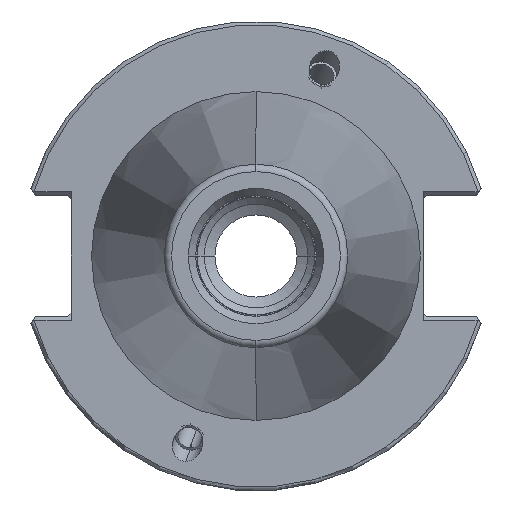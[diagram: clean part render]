
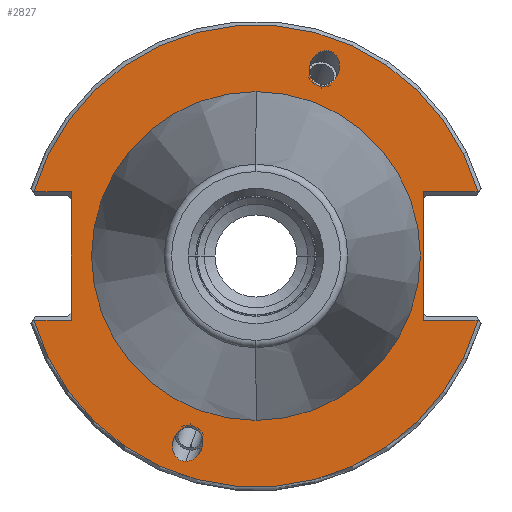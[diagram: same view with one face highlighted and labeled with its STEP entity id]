
A CAD part, left-side view. The second image highlights one B-rep face of the part: STEP entity #2827.
In plain terms, the highlighted planar face has unit normal (-1, 0, 0).
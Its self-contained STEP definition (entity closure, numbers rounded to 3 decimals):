
#116=CARTESIAN_POINT('',(3.175,0.,0.));
#117=DIRECTION('',(1.,0.,0.));
#118=DIRECTION('',(0.,1.,0.));
#119=AXIS2_PLACEMENT_3D('',#116,#117,#118);
#121=CARTESIAN_POINT('',(3.175,0.,0.));
#122=DIRECTION('',(1.,0.,0.));
#123=DIRECTION('',(0.,-1.,0.));
#124=AXIS2_PLACEMENT_3D('',#121,#122,#123);
#126=CARTESIAN_POINT('',(3.175,9.498,-27.766));
#127=CARTESIAN_POINT('',(3.175,9.257,-27.766));
#128=CARTESIAN_POINT('',(3.175,8.727,-27.663));
#129=CARTESIAN_POINT('',(3.175,7.941,-27.117));
#130=CARTESIAN_POINT('',(3.175,7.379,-26.257));
#131=CARTESIAN_POINT('',(3.175,7.151,-25.372));
#132=CARTESIAN_POINT('',(3.175,7.185,-24.486));
#133=CARTESIAN_POINT('',(3.175,7.557,-23.627));
#134=CARTESIAN_POINT('',(3.175,8.223,-23.08));
#135=CARTESIAN_POINT('',(3.175,8.731,-22.978));
#136=CARTESIAN_POINT('',(3.175,8.971,-22.978));
#138=CARTESIAN_POINT('',(3.175,8.971,-22.978));
#139=CARTESIAN_POINT('',(3.175,9.212,-22.978));
#140=CARTESIAN_POINT('',(3.175,9.742,-23.08));
#141=CARTESIAN_POINT('',(3.175,10.528,-23.627));
#142=CARTESIAN_POINT('',(3.175,11.09,-24.486));
#143=CARTESIAN_POINT('',(3.175,11.318,-25.372));
#144=CARTESIAN_POINT('',(3.175,11.284,-26.257));
#145=CARTESIAN_POINT('',(3.175,10.912,-27.117));
#146=CARTESIAN_POINT('',(3.175,10.246,-27.663));
#147=CARTESIAN_POINT('',(3.175,9.738,-27.766));
#148=CARTESIAN_POINT('',(3.175,9.498,-27.766));
#150=CARTESIAN_POINT('',(3.175,-9.498,27.766));
#151=CARTESIAN_POINT('',(3.175,-9.257,27.766));
#152=CARTESIAN_POINT('',(3.175,-8.727,27.663));
#153=CARTESIAN_POINT('',(3.175,-7.941,27.117));
#154=CARTESIAN_POINT('',(3.175,-7.379,26.257));
#155=CARTESIAN_POINT('',(3.175,-7.151,25.372));
#156=CARTESIAN_POINT('',(3.175,-7.185,24.486));
#157=CARTESIAN_POINT('',(3.175,-7.557,23.627));
#158=CARTESIAN_POINT('',(3.175,-8.223,23.08));
#159=CARTESIAN_POINT('',(3.175,-8.731,22.978));
#160=CARTESIAN_POINT('',(3.175,-8.971,22.978));
#162=CARTESIAN_POINT('',(3.175,-8.971,22.978));
#163=CARTESIAN_POINT('',(3.175,-9.212,22.978));
#164=CARTESIAN_POINT('',(3.175,-9.742,23.08));
#165=CARTESIAN_POINT('',(3.175,-10.528,23.627));
#166=CARTESIAN_POINT('',(3.175,-11.09,24.486));
#167=CARTESIAN_POINT('',(3.175,-11.318,25.372));
#168=CARTESIAN_POINT('',(3.175,-11.284,26.257));
#169=CARTESIAN_POINT('',(3.175,-10.912,27.117));
#170=CARTESIAN_POINT('',(3.175,-10.246,27.663));
#171=CARTESIAN_POINT('',(3.175,-9.738,27.766));
#172=CARTESIAN_POINT('',(3.175,-9.498,27.766));
#174=DIRECTION('',(0.,-1.,0.));
#175=VECTOR('',#174,5.017);
#176=CARTESIAN_POINT('',(3.175,30.017,8.69));
#177=LINE('',#176,#175);
#178=DIRECTION('',(0.,-1.,0.));
#179=VECTOR('',#178,7.417);
#180=CARTESIAN_POINT('',(3.175,-22.6,8.69));
#181=LINE('',#180,#179);
#182=DIRECTION('',(0.,1.,0.));
#183=VECTOR('',#182,7.417);
#184=CARTESIAN_POINT('',(3.175,-30.017,-8.69));
#185=LINE('',#184,#183);
#186=DIRECTION('',(0.,1.,0.));
#187=VECTOR('',#186,5.017);
#188=CARTESIAN_POINT('',(3.175,25.,-8.69));
#189=LINE('',#188,#187);
#862=DIRECTION('',(0.,0.,-1.));
#863=VECTOR('',#862,17.38);
#864=CARTESIAN_POINT('',(3.175,25.,8.69));
#865=LINE('',#864,#863);
#1004=DIRECTION('',(0.,0.,1.));
#1005=VECTOR('',#1004,17.38);
#1006=CARTESIAN_POINT('',(3.175,-22.6,-8.69));
#1007=LINE('',#1006,#1005);
#1126=CARTESIAN_POINT('',(3.175,0.,0.));
#1127=DIRECTION('',(-1.,0.,0.));
#1128=DIRECTION('',(0.,0.961,-0.278));
#1129=AXIS2_PLACEMENT_3D('',#1126,#1127,#1128);
#1198=CARTESIAN_POINT('',(3.175,0.,0.));
#1199=DIRECTION('',(-1.,0.,0.));
#1200=DIRECTION('',(0.,-0.961,0.278));
#1201=AXIS2_PLACEMENT_3D('',#1198,#1199,#1200);
#2288=CARTESIAN_POINT('',(3.175,22.2,0.));
#2289=CARTESIAN_POINT('',(3.175,-22.2,0.));
#2290=VERTEX_POINT('',#2288);
#2291=VERTEX_POINT('',#2289);
#2354=VERTEX_POINT('',#126);
#2355=VERTEX_POINT('',#136);
#2390=CARTESIAN_POINT('',(3.175,30.017,8.69));
#2391=CARTESIAN_POINT('',(3.175,25.,8.69));
#2392=VERTEX_POINT('',#2390);
#2393=VERTEX_POINT('',#2391);
#2398=CARTESIAN_POINT('',(3.175,25.,-8.69));
#2399=CARTESIAN_POINT('',(3.175,30.017,-8.69));
#2400=VERTEX_POINT('',#2398);
#2401=VERTEX_POINT('',#2399);
#2406=CARTESIAN_POINT('',(3.175,-22.6,8.69));
#2407=CARTESIAN_POINT('',(3.175,-30.017,8.69));
#2408=VERTEX_POINT('',#2406);
#2409=VERTEX_POINT('',#2407);
#2414=CARTESIAN_POINT('',(3.175,-30.017,
-8.69));
#2415=CARTESIAN_POINT('',(3.175,-22.6,-8.69));
#2416=VERTEX_POINT('',#2414);
#2417=VERTEX_POINT('',#2415);
#2452=CARTESIAN_POINT('',(3.175,-9.498,27.766));
#2453=VERTEX_POINT('',#2452);
#2454=CARTESIAN_POINT('',(3.175,-8.971,22.978));
#2455=VERTEX_POINT('',#2454);
#2788=CARTESIAN_POINT('',(3.175,0.,0.));
#2789=DIRECTION('',(1.,0.,0.));
#2790=DIRECTION('',(0.,0.,1.));
#2791=AXIS2_PLACEMENT_3D('',#2788,#2789,#2790);
#2792=PLANE('',#2791);
#2794=ORIENTED_EDGE('',*,*,#2793,.F.);
#2796=ORIENTED_EDGE('',*,*,#2795,.F.);
#2798=ORIENTED_EDGE('',*,*,#2797,.F.);
#2800=ORIENTED_EDGE('',*,*,#2799,.F.);
#2802=ORIENTED_EDGE('',*,*,#2801,.F.);
#2804=ORIENTED_EDGE('',*,*,#2803,.F.);
#2806=ORIENTED_EDGE('',*,*,#2805,.F.);
#2808=ORIENTED_EDGE('',*,*,#2807,.F.);
#2809=EDGE_LOOP('',(#2794,#2796,#2798,#2800,#2802,#2804,#2806,#2808));
#2810=FACE_OUTER_BOUND('',#2809,.F.);
#2812=ORIENTED_EDGE('',*,*,#2811,.T.);
#2814=ORIENTED_EDGE('',*,*,#2813,.T.);
#2815=EDGE_LOOP('',(#2812,#2814));
#2816=FACE_BOUND('',#2815,.F.);
#2818=ORIENTED_EDGE('',*,*,#2817,.T.);
#2820=ORIENTED_EDGE('',*,*,#2819,.T.);
#2821=EDGE_LOOP('',(#2818,#2820));
#2822=FACE_BOUND('',#2821,.F.);
#2823=ORIENTED_EDGE('',*,*,#2741,.F.);
#2824=ORIENTED_EDGE('',*,*,#2756,.F.);
#2825=EDGE_LOOP('',(#2823,#2824));
#2826=FACE_BOUND('',#2825,.F.);
#2827=ADVANCED_FACE('',(#2810,#2816,#2822,#2826),#2792,.F.);
#120=CIRCLE('',#119,22.2);
#125=CIRCLE('',#124,22.2);
#137=B_SPLINE_CURVE_WITH_KNOTS('',3,(#126,#127,#128,#129,#130,#131,#132,#133,
#134,#135,#136),.UNSPECIFIED.,.F.,.F.,(4,1,1,1,1,1,1,1,4),(0.,0.125,0.25,
0.375,0.5,0.625,0.75,0.875,1.),.UNSPECIFIED.);
#149=B_SPLINE_CURVE_WITH_KNOTS('',3,(#138,#139,#140,#141,#142,#143,#144,#145,
#146,#147,#148),.UNSPECIFIED.,.F.,.F.,(4,1,1,1,1,1,1,1,4),(0.,0.125,0.25,
0.375,0.5,0.625,0.75,0.875,1.),.UNSPECIFIED.);
#161=B_SPLINE_CURVE_WITH_KNOTS('',3,(#150,#151,#152,#153,#154,#155,#156,#157,
#158,#159,#160),.UNSPECIFIED.,.F.,.F.,(4,1,1,1,1,1,1,1,4),(0.,0.125,0.25,
0.375,0.5,0.625,0.75,0.875,1.),.UNSPECIFIED.);
#173=B_SPLINE_CURVE_WITH_KNOTS('',3,(#162,#163,#164,#165,#166,#167,#168,#169,
#170,#171,#172),.UNSPECIFIED.,.F.,.F.,(4,1,1,1,1,1,1,1,4),(0.,0.125,0.25,
0.375,0.5,0.625,0.75,0.875,1.),.UNSPECIFIED.);
#1130=CIRCLE('',#1129,31.25);
#1202=CIRCLE('',#1201,31.25);
#2741=EDGE_CURVE('',#2290,#2291,#120,.T.);
#2756=EDGE_CURVE('',#2291,#2290,#125,.T.);
#2793=EDGE_CURVE('',#2392,#2393,#177,.T.);
#2795=EDGE_CURVE('',#2409,#2392,#1202,.T.);
#2797=EDGE_CURVE('',#2408,#2409,#181,.T.);
#2799=EDGE_CURVE('',#2417,#2408,#1007,.T.);
#2801=EDGE_CURVE('',#2416,#2417,#185,.T.);
#2803=EDGE_CURVE('',#2401,#2416,#1130,.T.);
#2805=EDGE_CURVE('',#2400,#2401,#189,.T.);
#2807=EDGE_CURVE('',#2393,#2400,#865,.T.);
#2811=EDGE_CURVE('',#2354,#2355,#137,.T.);
#2813=EDGE_CURVE('',#2355,#2354,#149,.T.);
#2817=EDGE_CURVE('',#2453,#2455,#161,.T.);
#2819=EDGE_CURVE('',#2455,#2453,#173,.T.);
